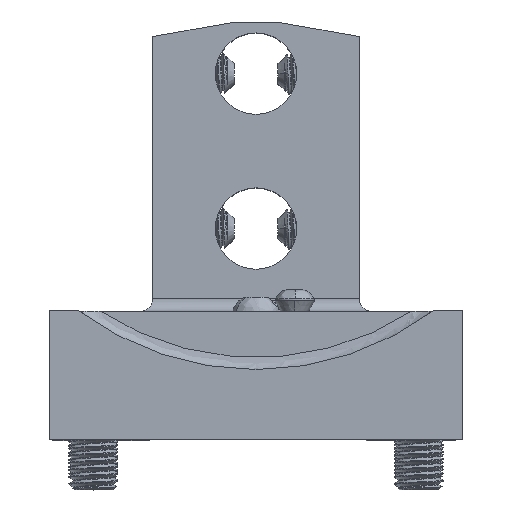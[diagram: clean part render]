
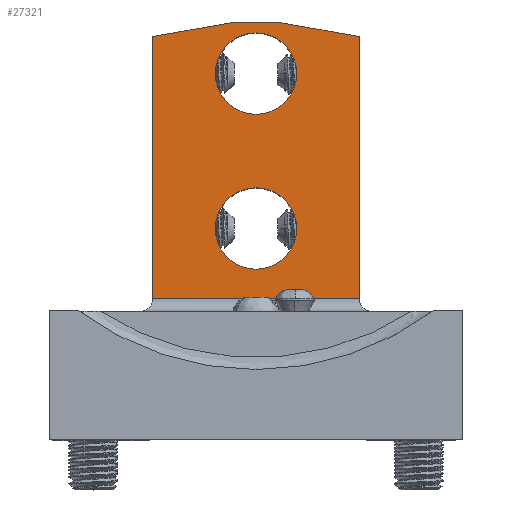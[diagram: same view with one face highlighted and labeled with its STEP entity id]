
A CAD part, top view. The second image highlights one B-rep face of the part: STEP entity #27321.
In plain terms, the highlighted planar face has unit normal (0, 0, -1).
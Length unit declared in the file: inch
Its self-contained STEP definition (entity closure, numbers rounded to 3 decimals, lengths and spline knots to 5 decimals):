
#502 = ORIENTED_EDGE ( 'NONE', *, *, #54145, .F. ) ;
#882 = DIRECTION ( 'NONE',  ( 0., 0., -1. ) ) ;
#912 = DIRECTION ( 'NONE',  ( 0., 0., -1. ) ) ;
#973 = VERTEX_POINT ( 'NONE', #40679 ) ;
#1043 = EDGE_CURVE ( 'NONE', #48398, #45081, #41255, .T. ) ;
#2524 = EDGE_CURVE ( 'NONE', #33622, #29537, #10533, .T. ) ;
#2525 = ORIENTED_EDGE ( 'NONE', *, *, #48142, .F. ) ;
#2886 = CARTESIAN_POINT ( 'NONE',  ( 0.2, 0.5, 2. ) ) ;
#3976 = CARTESIAN_POINT ( 'NONE',  ( 0.2, 0.5, 2. ) ) ;
#5065 = CARTESIAN_POINT ( 'NONE',  ( 0., -1.5, 2. ) ) ;
#6007 = EDGE_LOOP ( 'NONE', ( #2525, #31813 ) ) ;
#6022 = AXIS2_PLACEMENT_3D ( 'NONE', #5065, #882, #26496 ) ;
#6071 = DIRECTION ( 'NONE',  ( 0., -1., 0. ) ) ;
#6251 = CARTESIAN_POINT ( 'NONE',  ( -0.2, 0.5, 2. ) ) ;
#7282 = DIRECTION ( 'NONE',  ( 0., 0., -1. ) ) ;
#7349 = CARTESIAN_POINT ( 'NONE',  ( 1., 0.35894, 2. ) ) ;
#7822 = VECTOR ( 'NONE', #45187, 39.37008 ) ;
#10533 = CIRCLE ( 'NONE', #41628, 0.3937 ) ;
#10881 = DIRECTION ( 'NONE',  ( 1., 0., 0. ) ) ;
#11458 = DIRECTION ( 'NONE',  ( -1., 0., 0. ) ) ;
#12301 = EDGE_LOOP ( 'NONE', ( #22334, #20287, #24820, #502, #16346, #28786 ) ) ;
#13004 = EDGE_CURVE ( 'NONE', #45081, #47116, #28328, .T. ) ;
#13174 = CARTESIAN_POINT ( 'NONE',  ( -1., 0.35894, 2. ) ) ;
#14865 = DIRECTION ( 'NONE',  ( -1., 0., 0. ) ) ;
#15054 = CARTESIAN_POINT ( 'NONE',  ( 0., 0., 2. ) ) ;
#16346 = ORIENTED_EDGE ( 'NONE', *, *, #13004, .F. ) ;
#18368 = AXIS2_PLACEMENT_3D ( 'NONE', #15054, #27002, #10881 ) ;
#18937 = PLANE ( 'NONE',  #18368 ) ;
#19147 = VERTEX_POINT ( 'NONE', #45979 ) ;
#19259 = VECTOR ( 'NONE', #44215, 39.37008 ) ;
#19300 = DIRECTION ( 'NONE',  ( 0., 0., -1. ) ) ;
#19905 = VECTOR ( 'NONE', #24599, 39.37008 ) ;
#20287 = ORIENTED_EDGE ( 'NONE', *, *, #26663, .T. ) ;
#20962 = DIRECTION ( 'NONE',  ( 0.985, -0.174, 0. ) ) ;
#21661 = VECTOR ( 'NONE', #6071, 39.37008 ) ;
#21989 = ORIENTED_EDGE ( 'NONE', *, *, #39228, .F. ) ;
#22334 = ORIENTED_EDGE ( 'NONE', *, *, #48032, .F. ) ;
#24599 = DIRECTION ( 'NONE',  ( 0., -1., 0. ) ) ;
#24820 = ORIENTED_EDGE ( 'NONE', *, *, #48509, .T. ) ;
#26437 = CIRCLE ( 'NONE', #6022, 0.3937 ) ;
#26496 = DIRECTION ( 'NONE',  ( -1., 0., 0. ) ) ;
#26663 = EDGE_CURVE ( 'NONE', #36368, #44456, #32964, .T. ) ;
#26797 = DIRECTION ( 'NONE',  ( -1., 0., 0. ) ) ;
#26966 = LINE ( 'NONE', #27247, #19259 ) ;
#27002 = DIRECTION ( 'NONE',  ( 0., 0., 1. ) ) ;
#27247 = CARTESIAN_POINT ( 'NONE',  ( 1., -2.18, 2. ) ) ;
#27321 = ADVANCED_FACE ( 'NONE', ( #48426, #31741, #31451 ), #18937, .F. ) ;
#28198 = CARTESIAN_POINT ( 'NONE',  ( -0.2, 0.5, 2. ) ) ;
#28328 = LINE ( 'NONE', #40286, #21661 ) ;
#28782 = CARTESIAN_POINT ( 'NONE',  ( 0.3937, -1.5, 2. ) ) ;
#28786 = ORIENTED_EDGE ( 'NONE', *, *, #1043, .F. ) ;
#29537 = VERTEX_POINT ( 'NONE', #39404 ) ;
#31451 = FACE_BOUND ( 'NONE', #35091, .T. ) ;
#31741 = FACE_BOUND ( 'NONE', #6007, .T. ) ;
#31813 = ORIENTED_EDGE ( 'NONE', *, *, #2524, .F. ) ;
#31828 = VECTOR ( 'NONE', #53240, 39.37008 ) ;
#32380 = AXIS2_PLACEMENT_3D ( 'NONE', #52964, #19300, #14865 ) ;
#32947 = LINE ( 'NONE', #49909, #19905 ) ;
#32964 = LINE ( 'NONE', #54929, #54766 ) ;
#33614 = VERTEX_POINT ( 'NONE', #47047 ) ;
#33622 = VERTEX_POINT ( 'NONE', #28782 ) ;
#35091 = EDGE_LOOP ( 'NONE', ( #50081, #21989 ) ) ;
#36241 = CARTESIAN_POINT ( 'NONE',  ( 0., -1.5, 2. ) ) ;
#36368 = VERTEX_POINT ( 'NONE', #3976 ) ;
#39228 = EDGE_CURVE ( 'NONE', #33614, #973, #41085, .T. ) ;
#39404 = CARTESIAN_POINT ( 'NONE',  ( -0.3937, -1.5, 2. ) ) ;
#40286 = CARTESIAN_POINT ( 'NONE',  ( -1., 0.35894, 2. ) ) ;
#40679 = CARTESIAN_POINT ( 'NONE',  ( -0.3937, 0., 2. ) ) ;
#41085 = CIRCLE ( 'NONE', #41944, 0.3937 ) ;
#41255 = LINE ( 'NONE', #28198, #31828 ) ;
#41540 = CARTESIAN_POINT ( 'NONE',  ( -1., -2.18, 2. ) ) ;
#41628 = AXIS2_PLACEMENT_3D ( 'NONE', #36241, #7282, #11458 ) ;
#41824 = LINE ( 'NONE', #2886, #7822 ) ;
#41944 = AXIS2_PLACEMENT_3D ( 'NONE', #43481, #912, #26797 ) ;
#43481 = CARTESIAN_POINT ( 'NONE',  ( 0., 0., 2. ) ) ;
#44215 = DIRECTION ( 'NONE',  ( 1., 0., 0. ) ) ;
#44456 = VERTEX_POINT ( 'NONE', #7349 ) ;
#45081 = VERTEX_POINT ( 'NONE', #13174 ) ;
#45187 = DIRECTION ( 'NONE',  ( -1., 0., 0. ) ) ;
#45979 = CARTESIAN_POINT ( 'NONE',  ( 1., -2.18, 2. ) ) ;
#47047 = CARTESIAN_POINT ( 'NONE',  ( 0.3937, 0., 2. ) ) ;
#47116 = VERTEX_POINT ( 'NONE', #41540 ) ;
#48032 = EDGE_CURVE ( 'NONE', #36368, #48398, #41824, .T. ) ;
#48142 = EDGE_CURVE ( 'NONE', #29537, #33622, #26437, .T. ) ;
#48398 = VERTEX_POINT ( 'NONE', #6251 ) ;
#48426 = FACE_OUTER_BOUND ( 'NONE', #12301, .T. ) ;
#48509 = EDGE_CURVE ( 'NONE', #44456, #19147, #32947, .T. ) ;
#49257 = CIRCLE ( 'NONE', #32380, 0.3937 ) ;
#49909 = CARTESIAN_POINT ( 'NONE',  ( 1., 0.35894, 2. ) ) ;
#50081 = ORIENTED_EDGE ( 'NONE', *, *, #50123, .F. ) ;
#50123 = EDGE_CURVE ( 'NONE', #973, #33614, #49257, .T. ) ;
#52964 = CARTESIAN_POINT ( 'NONE',  ( 0., 0., 2. ) ) ;
#53240 = DIRECTION ( 'NONE',  ( -0.985, -0.174, 0. ) ) ;
#54145 = EDGE_CURVE ( 'NONE', #47116, #19147, #26966, .T. ) ;
#54766 = VECTOR ( 'NONE', #20962, 39.37008 ) ;
#54929 = CARTESIAN_POINT ( 'NONE',  ( 0.2, 0.5, 2. ) ) ;
